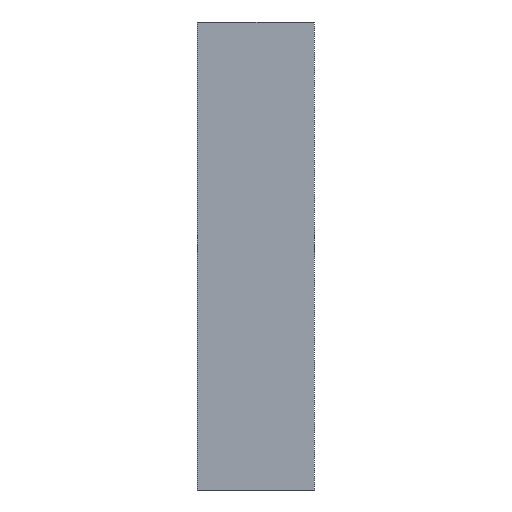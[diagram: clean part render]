
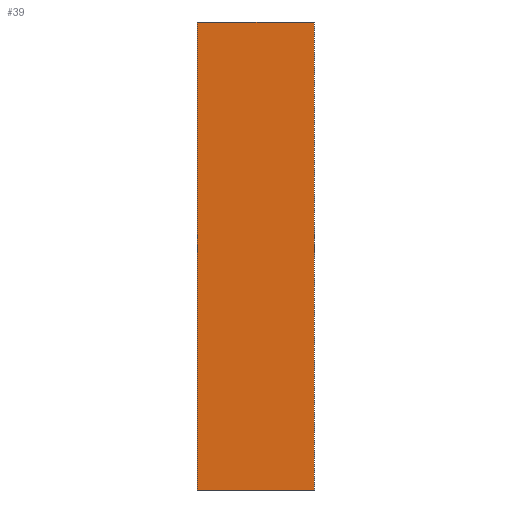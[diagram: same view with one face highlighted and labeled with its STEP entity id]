
A CAD part, left-side view. The second image highlights one B-rep face of the part: STEP entity #39.
In plain terms, the highlighted planar face has unit normal (-1, 0, 0).
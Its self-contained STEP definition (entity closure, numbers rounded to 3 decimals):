
#39=ADVANCED_FACE('',(#51),#355,.T.);
#51=FACE_OUTER_BOUND('',#63,.T.);
#63=EDGE_LOOP('',(#87,#88,#89,#90));
#87=ORIENTED_EDGE('',*,*,#250,.T.);
#88=ORIENTED_EDGE('',*,*,#247,.F.);
#89=ORIENTED_EDGE('',*,*,#249,.F.);
#90=ORIENTED_EDGE('',*,*,#240,.F.);
#120=PCURVE('',#351,#168);
#129=PCURVE('',#353,#177);
#131=PCURVE('',#354,#179);
#135=PCURVE('',#355,#183);
#136=PCURVE('',#355,#184);
#137=PCURVE('',#355,#185);
#138=PCURVE('',#355,#186);
#142=PCURVE('',#356,#190);
#168=DEFINITIONAL_REPRESENTATION('',(#266),#586);
#177=DEFINITIONAL_REPRESENTATION('',(#282),#586);
#179=DEFINITIONAL_REPRESENTATION('',(#286),#586);
#183=DEFINITIONAL_REPRESENTATION('',(#291),#586);
#184=DEFINITIONAL_REPRESENTATION('',(#292),#586);
#185=DEFINITIONAL_REPRESENTATION('',(#293),#586);
#186=DEFINITIONAL_REPRESENTATION('',(#294),#586);
#190=DEFINITIONAL_REPRESENTATION('',(#298),#586);
#216=SURFACE_CURVE('',#265,(#120,#138),.PCURVE_S1.);
#223=SURFACE_CURVE('',#281,(#129,#136),.PCURVE_S1.);
#225=SURFACE_CURVE('',#285,(#131,#137),.PCURVE_S1.);
#226=SURFACE_CURVE('',#290,(#135,#142),.PCURVE_S1.);
#240=EDGE_CURVE('',#339,#338,#216,.T.);
#247=EDGE_CURVE('',#341,#342,#223,.T.);
#249=EDGE_CURVE('',#338,#341,#225,.T.);
#250=EDGE_CURVE('',#339,#342,#226,.T.);
#265=B_SPLINE_CURVE_WITH_KNOTS('',1,(#431,#432),.UNSPECIFIED.,.F.,.F.,(2,
2),(1600.,1640.),.UNSPECIFIED.);
#266=B_SPLINE_CURVE_WITH_KNOTS('',1,(#433,#434),.UNSPECIFIED.,.F.,.F.,(2,
2),(1600.,1640.),.UNSPECIFIED.);
#281=B_SPLINE_CURVE_WITH_KNOTS('',1,(#463,#464),.UNSPECIFIED.,.F.,.F.,(2,
2),(-1640.,-1600.),.UNSPECIFIED.);
#282=B_SPLINE_CURVE_WITH_KNOTS('',1,(#465,#466),.UNSPECIFIED.,.F.,.F.,(2,
2),(-1640.,-1600.),.UNSPECIFIED.);
#285=B_SPLINE_CURVE_WITH_KNOTS('',1,(#471,#472),.UNSPECIFIED.,.F.,.F.,(2,
2),(0.,80.),.UNSPECIFIED.);
#286=B_SPLINE_CURVE_WITH_KNOTS('',1,(#473,#474),.UNSPECIFIED.,.F.,.F.,(2,
2),(0.,80.),.UNSPECIFIED.);
#290=B_SPLINE_CURVE_WITH_KNOTS('',1,(#481,#482),.UNSPECIFIED.,.F.,.F.,(2,
2),(0.,80.),.UNSPECIFIED.);
#291=B_SPLINE_CURVE_WITH_KNOTS('',1,(#483,#484),.UNSPECIFIED.,.F.,.F.,(2,
2),(0.,80.),.UNSPECIFIED.);
#292=B_SPLINE_CURVE_WITH_KNOTS('',1,(#485,#486),.UNSPECIFIED.,.F.,.F.,(2,
2),(-1640.,-1600.),.UNSPECIFIED.);
#293=B_SPLINE_CURVE_WITH_KNOTS('',1,(#487,#488),.UNSPECIFIED.,.F.,.F.,(2,
2),(0.,80.),.UNSPECIFIED.);
#294=B_SPLINE_CURVE_WITH_KNOTS('',1,(#489,#490),.UNSPECIFIED.,.F.,.F.,(2,
2),(1600.,1640.),.UNSPECIFIED.);
#298=B_SPLINE_CURVE_WITH_KNOTS('',1,(#497,#498),.UNSPECIFIED.,.F.,.F.,(2,
2),(0.,80.),.UNSPECIFIED.);
#338=VERTEX_POINT('',#422);
#339=VERTEX_POINT('',#423);
#341=VERTEX_POINT('',#425);
#342=VERTEX_POINT('',#426);
#351=PLANE('',#383);
#353=PLANE('',#385);
#354=PLANE('',#386);
#355=PLANE('',#387);
#356=PLANE('',#388);
#383=AXIS2_PLACEMENT_3D('',#413,#398,$);
#385=AXIS2_PLACEMENT_3D('',#415,#400,$);
#386=AXIS2_PLACEMENT_3D('',#416,#401,$);
#387=AXIS2_PLACEMENT_3D('',#417,#402,$);
#388=AXIS2_PLACEMENT_3D('',#418,#403,$);
#398=DIRECTION('',(0.,0.,-1.));
#400=DIRECTION('',(0.,0.,1.));
#401=DIRECTION('',(0.,1.,0.));
#402=DIRECTION('',(-1.,0.,0.));
#403=DIRECTION('',(0.,-1.,0.));
#413=CARTESIAN_POINT('',(-762.,-585.,60.));
#415=CARTESIAN_POINT('',(-762.,-585.,140.));
#416=CARTESIAN_POINT('',(-762.,-565.,60.));
#417=CARTESIAN_POINT('',(-782.,-565.,60.));
#418=CARTESIAN_POINT('',(-782.,-585.,60.));
#422=CARTESIAN_POINT('',(-782.,-565.,60.));
#423=CARTESIAN_POINT('',(-782.,-585.,60.));
#425=CARTESIAN_POINT('',(-782.,-565.,140.));
#426=CARTESIAN_POINT('',(-782.,-585.,140.));
#431=CARTESIAN_POINT('',(-782.,-585.,60.));
#432=CARTESIAN_POINT('',(-782.,-565.,60.));
#433=CARTESIAN_POINT('',(1600.,0.));
#434=CARTESIAN_POINT('',(1600.,40.));
#463=CARTESIAN_POINT('',(-782.,-565.,140.));
#464=CARTESIAN_POINT('',(-782.,-585.,140.));
#465=CARTESIAN_POINT('',(40.,1600.));
#466=CARTESIAN_POINT('',(0.,1600.));
#471=CARTESIAN_POINT('',(-782.,-565.,60.));
#472=CARTESIAN_POINT('',(-782.,-565.,140.));
#473=CARTESIAN_POINT('',(-1640.,0.));
#474=CARTESIAN_POINT('',(-1640.,80.));
#481=CARTESIAN_POINT('',(-782.,-585.,60.));
#482=CARTESIAN_POINT('',(-782.,-585.,140.));
#483=CARTESIAN_POINT('',(-1600.,0.));
#484=CARTESIAN_POINT('',(-1600.,80.));
#485=CARTESIAN_POINT('',(-1640.,80.));
#486=CARTESIAN_POINT('',(-1600.,80.));
#487=CARTESIAN_POINT('',(-1640.,0.));
#488=CARTESIAN_POINT('',(-1640.,80.));
#489=CARTESIAN_POINT('',(-1600.,0.));
#490=CARTESIAN_POINT('',(-1640.,0.));
#497=CARTESIAN_POINT('',(-1600.,0.));
#498=CARTESIAN_POINT('',(-1600.,80.));
#586=(
GEOMETRIC_REPRESENTATION_CONTEXT(2)
PARAMETRIC_REPRESENTATION_CONTEXT()
REPRESENTATION_CONTEXT('pspace','')
);
